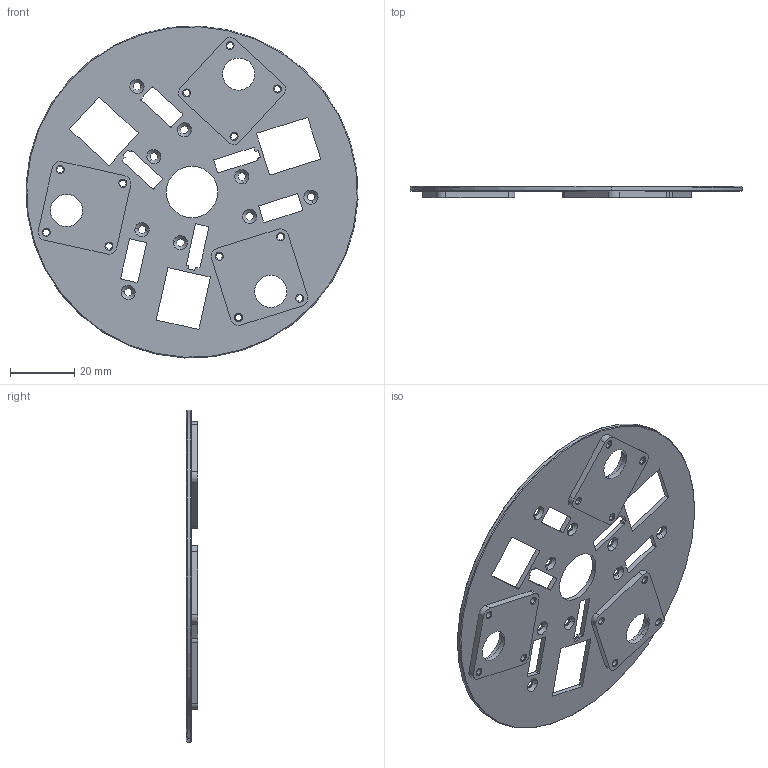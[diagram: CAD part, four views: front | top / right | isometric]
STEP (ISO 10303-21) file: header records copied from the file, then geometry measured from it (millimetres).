
FILE_DESCRIPTION(/* description */ ('VariCAD 2010-1.04 AP-203'),/* implementation_level */ '2;1');
FILE_NAME(/* name */ '0353-13-14',/* time_stamp */ '2010-01-13T11:08:05-07:00',/* author */ (''),/* organization */ (''),/* preprocessor_version */ 'ST-DEVELOPER v12',/* originating_system */ 'VariCAD 2010-1.04; kernel version (20090520)',/* authorisation */ '');
FILE_SCHEMA (('CONFIG_CONTROL_DESIGN'));
Length unit declared in the file: millimetre
Products named in the file (1): Part
Bounding box: 103.3 x 3.5 x 103.3 mm (x, y, z)
Volume: 13034.1 mm3; surface area: 16634 mm2
Topology: 13 solids, 13 shells, 289 faces, 755 edges, 486 vertices
Faces by surface type: cylinder 163, plane 80, cone 46
Entity records: 9257 total; most frequent: DIRECTION 1727, CARTESIAN_POINT 1544, ORIENTED_EDGE 1510, EDGE_CURVE 755, AXIS2_PLACEMENT_3D 669, VERTEX_POINT 486, LINE 389, VECTOR 389
